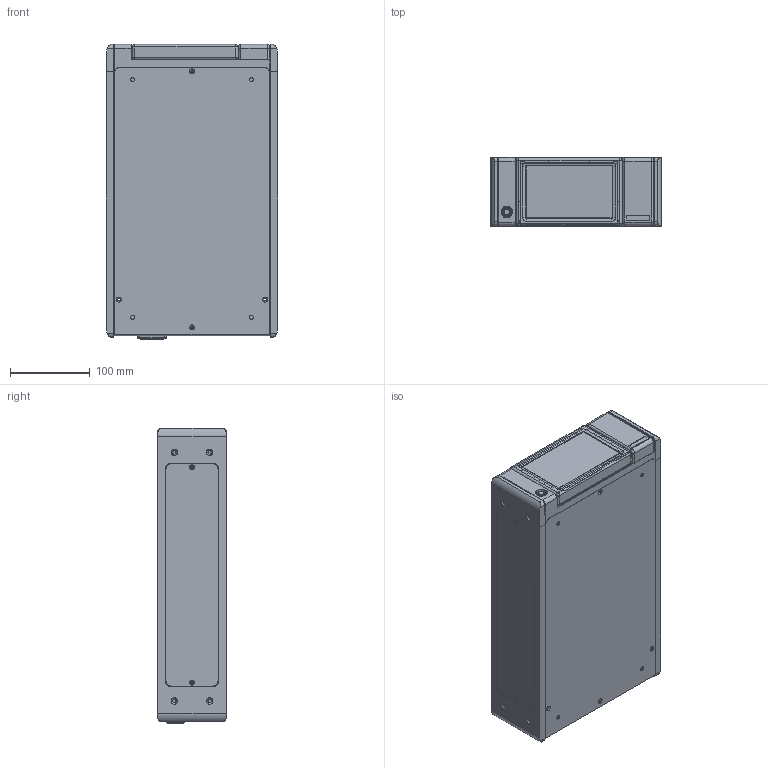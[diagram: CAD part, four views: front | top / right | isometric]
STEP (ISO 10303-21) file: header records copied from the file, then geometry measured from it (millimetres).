
FILE_DESCRIPTION (( 'STEP AP214' ), '1' );
FILE_NAME ('XIP.STEP', '2021-08-06T19:24:37', ( '' ), ( '' ), 'SwSTEP 2.0', 'SolidWorks 2020', '' );
FILE_SCHEMA (( 'AUTOMOTIVE_DESIGN' ));
Length unit declared in the file: inch
Products named in the file (31): 105-004; 107-HRX-RPT_3.0_DEFAULT; Cast Display Layout Sketch; McMaster Carr - 91585A510; 105-004_Nut^105-004; 107-HRX-RP_3.0; Schurter_5110.0343.1; 107-553; PEM CLS_PEM CLS-M3-2; 107-930_Simplified; 108-506_Simplified; 112-515_ASSEMBLED VIEW; 107-512; 107-524-C-DET-01; 107-931_Simplified; 107-513_Simplified; 102-501; PEM B_PEM BS-M3-2; PEM BSOS_PEM BSOS-M4-10; 107-524-C_NoArtwork; IEC 417 - #5019 Label; 108-501_Simplified; 107-554; 107-555_NO VENT; XIP; RASM3-7-3; G-113-1624_defeatured; IGUS - GSM-0506-05; PEM CLS_PEM CLS-M2-2
Assembly tree (35 placements, depth 4):
  Cast Display Layout Sketch
  XIP
    112-515_ASSEMBLED VIEW
      105-004
        105-004
        105-004_Nut^105-004
    107-931_Simplified
    108-501_Simplified
      107-512
      108-506_Simplified
        107-513_Simplified
        McMaster Carr - 91585A510
      102-501
    G-113-1624_defeatured
    107-553
    107-554
    107-555_NO VENT  x2
    107-930_Simplified  x2
    Schurter_5110.0343.1
    107-524-C_NoArtwork
      107-524-C-DET-01
      IGUS - GSM-0506-05
    107-HRX-RPT_3.0_DEFAULT
      107-HRX-RP_3.0
        107-HRX-RP_3.0
        PEM CLS_PEM CLS-M3-2  x2
        PEM B_PEM BS-M3-2
        PEM BSOS_PEM BSOS-M4-10
        RASM3-7-3  x4
        IEC 417 - #5019 Label
        PEM CLS_PEM CLS-M2-2
Bounding box: 215 x 86.66 x 370.89 mm (x, y, z)
Volume: 698803.1 mm3; surface area: 687206.2 mm2
Topology: 51 solids, 64 shells, 2441 faces, 6374 edges, 4074 vertices
Faces by surface type: plane 1348, cylinder 680, cone 266, bspline 115, torus 22, sphere 10
Entity records: 91297 total; most frequent: CARTESIAN_POINT 22684, ORIENTED_EDGE 10744, DIRECTION 10245, EDGE_CURVE 5422, LINE 3539, VECTOR 3539, VERTEX_POINT 3482, AXIS2_PLACEMENT_3D 3353
